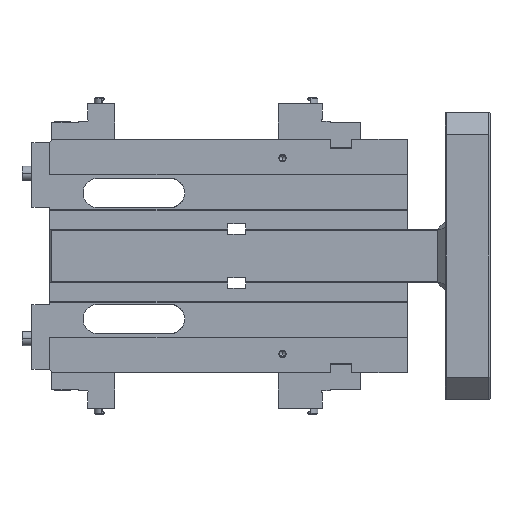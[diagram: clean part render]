
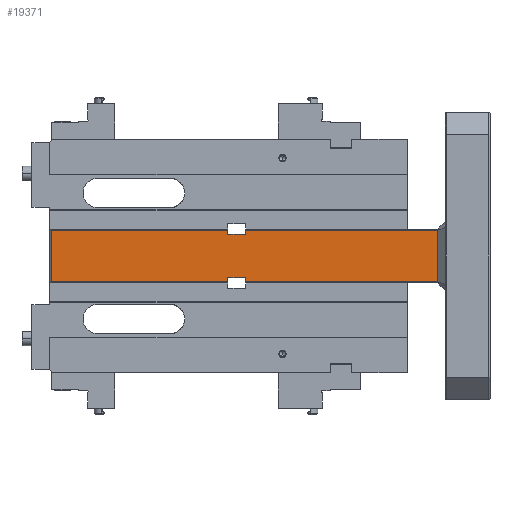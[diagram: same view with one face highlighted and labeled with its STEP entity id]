
A CAD part, left-side view. The second image highlights one B-rep face of the part: STEP entity #19371.
In plain terms, the highlighted planar face has unit normal (-1, 0, 0).
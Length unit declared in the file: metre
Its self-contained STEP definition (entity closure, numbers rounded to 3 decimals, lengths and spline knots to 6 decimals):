
#3704=DIRECTION('',(0.,0.,-1.));
#3705=VECTOR('',#3704,0.0045);
#3706=CARTESIAN_POINT('',(-0.065,0.292,-0.024));
#3707=LINE('',#3706,#3705);
#3748=DIRECTION('',(0.,0.,1.));
#3749=VECTOR('',#3748,0.0045);
#3750=CARTESIAN_POINT('',(-0.065,0.272,-0.0285));
#3751=LINE('',#3750,#3749);
#4084=DIRECTION('',(0.,0.,1.));
#4085=VECTOR('',#4084,0.057);
#4086=CARTESIAN_POINT('',(-0.065,0.058,-0.0285));
#4087=LINE('',#4086,#4085);
#4092=DIRECTION('',(0.,-1.,0.));
#4093=VECTOR('',#4092,0.214);
#4094=CARTESIAN_POINT('',(-0.065,0.272,0.0285));
#4095=LINE('',#4094,#4093);
#8161=DIRECTION('',(0.,0.,1.));
#8162=VECTOR('',#8161,0.0045);
#8163=CARTESIAN_POINT('',(-0.065,0.272,0.024));
#8164=LINE('',#8163,#8162);
#8288=DIRECTION('',(0.,0.,-1.));
#8289=VECTOR('',#8288,0.0045);
#8290=CARTESIAN_POINT('',(-0.065,0.292,0.0285));
#8291=LINE('',#8290,#8289);
#8374=DIRECTION('',(0.,-1.,0.));
#8375=VECTOR('',#8374,0.02);
#8376=CARTESIAN_POINT('',(-0.065,0.292,0.024));
#8377=LINE('',#8376,#8375);
#8564=DIRECTION('',(0.,1.,0.));
#8565=VECTOR('',#8564,0.02);
#8566=CARTESIAN_POINT('',(-0.065,0.272,-0.024));
#8567=LINE('',#8566,#8565);
#8602=DIRECTION('',(0.,-1.,0.));
#8603=VECTOR('',#8602,0.1965);
#8604=CARTESIAN_POINT('',(-0.065,0.4885,0.0285));
#8605=LINE('',#8604,#8603);
#8610=DIRECTION('',(0.,0.,1.));
#8611=VECTOR('',#8610,0.057);
#8612=CARTESIAN_POINT('',(-0.065,0.4885,-0.0285));
#8613=LINE('',#8612,#8611);
#8614=DIRECTION('',(0.,1.,0.));
#8615=VECTOR('',#8614,0.1965);
#8616=CARTESIAN_POINT('',(-0.065,0.292,-0.0285));
#8617=LINE('',#8616,#8615);
#9214=DIRECTION('',(0.,1.,0.));
#9215=VECTOR('',#9214,0.214);
#9216=CARTESIAN_POINT('',(-0.065,0.058,-0.0285));
#9217=LINE('',#9216,#9215);
#12617=CARTESIAN_POINT('',(-0.065,0.058,-0.0285));
#12618=CARTESIAN_POINT('',(-0.065,0.058,0.0285));
#12619=VERTEX_POINT('',#12617);
#12620=VERTEX_POINT('',#12618);
#12621=CARTESIAN_POINT('',(-0.065,0.272,-0.0285));
#12622=VERTEX_POINT('',#12621);
#12623=CARTESIAN_POINT('',(-0.065,0.272,-0.024));
#12624=VERTEX_POINT('',#12623);
#12625=CARTESIAN_POINT('',(-0.065,0.292,-0.024));
#12626=VERTEX_POINT('',#12625);
#12627=CARTESIAN_POINT('',(-0.065,0.292,-0.0285));
#12628=VERTEX_POINT('',#12627);
#12629=CARTESIAN_POINT('',(-0.065,0.4885,-0.0285));
#12630=VERTEX_POINT('',#12629);
#12631=CARTESIAN_POINT('',(-0.065,0.4885,0.0285));
#12632=VERTEX_POINT('',#12631);
#12633=CARTESIAN_POINT('',(-0.065,0.292,0.0285));
#12634=VERTEX_POINT('',#12633);
#12635=CARTESIAN_POINT('',(-0.065,0.292,0.024));
#12636=VERTEX_POINT('',#12635);
#12637=CARTESIAN_POINT('',(-0.065,0.272,0.024));
#12638=VERTEX_POINT('',#12637);
#12639=CARTESIAN_POINT('',(-0.065,0.272,0.0285));
#12640=VERTEX_POINT('',#12639);
#19343=CARTESIAN_POINT('',(-0.065,0.05,0.03));
#19344=DIRECTION('',(1.,0.,0.));
#19345=DIRECTION('',(0.,1.,0.));
#19346=AXIS2_PLACEMENT_3D('',#19343,#19344,#19345);
#19347=PLANE('',#19346);
#19349=ORIENTED_EDGE('',*,*,#19348,.T.);
#19350=ORIENTED_EDGE('',*,*,#19335,.F.);
#19352=ORIENTED_EDGE('',*,*,#19351,.T.);
#19353=ORIENTED_EDGE('',*,*,#19079,.T.);
#19355=ORIENTED_EDGE('',*,*,#19354,.T.);
#19356=ORIENTED_EDGE('',*,*,#19040,.T.);
#19358=ORIENTED_EDGE('',*,*,#19357,.T.);
#19360=ORIENTED_EDGE('',*,*,#19359,.T.);
#19362=ORIENTED_EDGE('',*,*,#19361,.T.);
#19364=ORIENTED_EDGE('',*,*,#19363,.T.);
#19366=ORIENTED_EDGE('',*,*,#19365,.T.);
#19368=ORIENTED_EDGE('',*,*,#19367,.T.);
#19369=EDGE_LOOP('',(#19349,#19350,#19352,#19353,#19355,#19356,#19358,#19360,
#19362,#19364,#19366,#19368));
#19370=FACE_OUTER_BOUND('',#19369,.F.);
#19371=ADVANCED_FACE('',(#19370),#19347,.F.);
#19040=EDGE_CURVE('',#12626,#12628,#3707,.T.);
#19079=EDGE_CURVE('',#12622,#12624,#3751,.T.);
#19335=EDGE_CURVE('',#12619,#12620,#4087,.T.);
#19348=EDGE_CURVE('',#12640,#12620,#4095,.T.);
#19351=EDGE_CURVE('',#12619,#12622,#9217,.T.);
#19354=EDGE_CURVE('',#12624,#12626,#8567,.T.);
#19357=EDGE_CURVE('',#12628,#12630,#8617,.T.);
#19359=EDGE_CURVE('',#12630,#12632,#8613,.T.);
#19361=EDGE_CURVE('',#12632,#12634,#8605,.T.);
#19363=EDGE_CURVE('',#12634,#12636,#8291,.T.);
#19365=EDGE_CURVE('',#12636,#12638,#8377,.T.);
#19367=EDGE_CURVE('',#12638,#12640,#8164,.T.);
